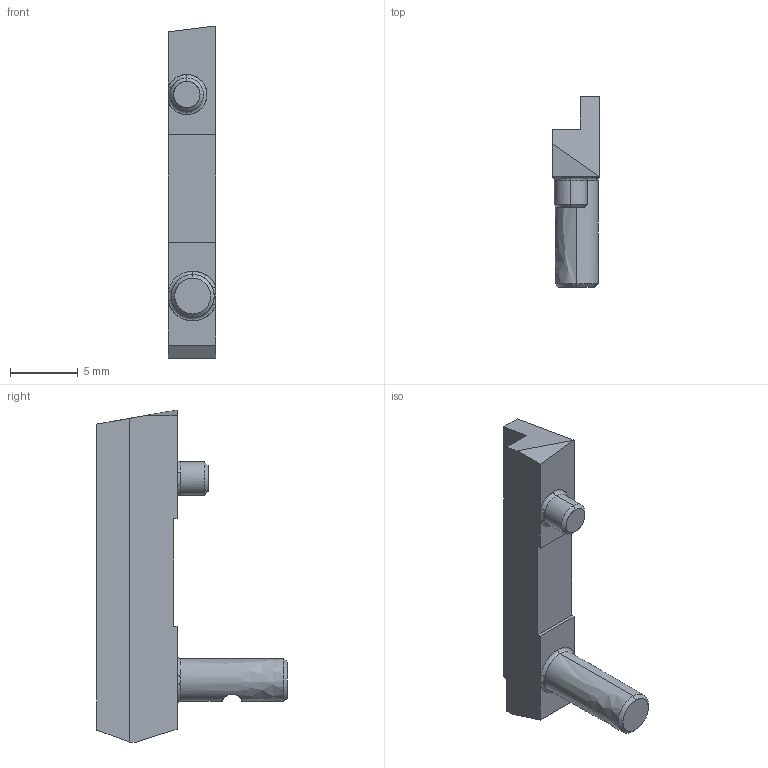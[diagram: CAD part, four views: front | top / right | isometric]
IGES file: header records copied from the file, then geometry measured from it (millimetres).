
Start section: SolidWorks IGES file using analytic representation for surfaces
Global section: file name: \\PSSILO\catalogs\CONTENTCENTRAL\Ejector-1\Cache\1D65BA8B-CE3E-4754-86F1-3A9D6E58869C.IGS; native system: SolidWorks 2009; preprocessor: SolidWorks 2009; author: partstream; date: 090716.112019; units: inch
Bounding box: 3.51 x 14.05 x 24.49 mm (x, y, z)
Surface area: 566 mm2 (no closed solid volume)
Topology: 0 solids, 0 shells, 37 faces, 335 edges, 335 vertices
Faces by surface type: bspline 27, revolution 10
